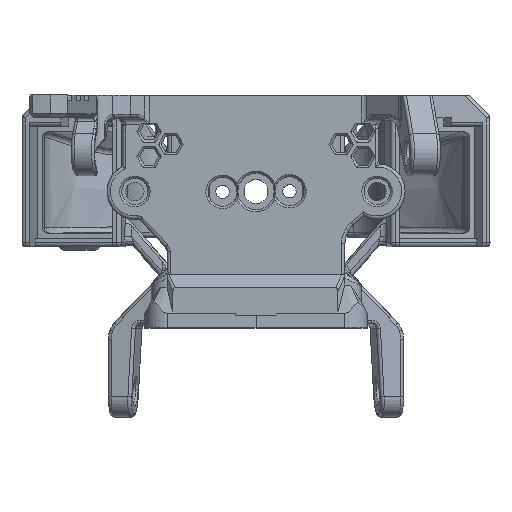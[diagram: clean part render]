
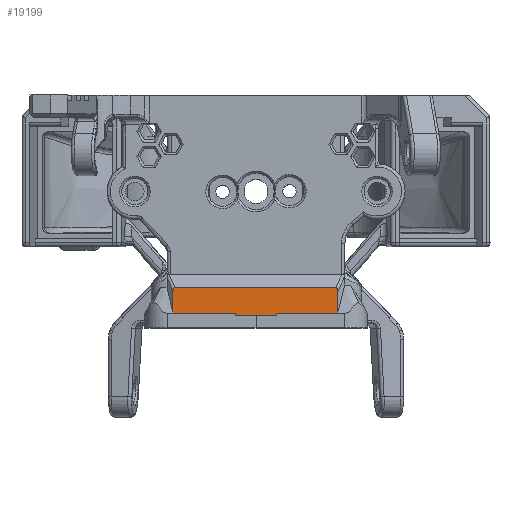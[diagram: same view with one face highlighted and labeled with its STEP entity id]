
A CAD part, top view. The second image highlights one B-rep face of the part: STEP entity #19199.
In plain terms, the highlighted planar face has unit normal (0, 0, 1).
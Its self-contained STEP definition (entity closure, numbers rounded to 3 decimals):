
#774=B_SPLINE_CURVE_WITH_KNOTS('',3,(#36584,#36585,#36586,#36587),
 .UNSPECIFIED.,.F.,.F.,(4,4),(-1.184,-0.064),
 .UNSPECIFIED.);
#775=B_SPLINE_CURVE_WITH_KNOTS('',3,(#36594,#36595,#36596,#36597),
 .UNSPECIFIED.,.F.,.F.,(4,4),(-1.097,0.),.UNSPECIFIED.);
#1228=ELLIPSE('',#20656,1.919,0.746);
#1230=ELLIPSE('',#20660,1.92,0.746);
#1473=PLANE('',#20659);
#2437=FACE_OUTER_BOUND('',#3606,.T.);
#3606=EDGE_LOOP('',(#14924,#14925,#14926,#14927,#14928,#14929,#14930,#14931,
#14932,#14933));
#4875=LINE('',#35071,#6245);
#4953=LINE('',#36577,#6323);
#4955=LINE('',#36582,#6325);
#4956=LINE('',#36589,#6326);
#4957=LINE('',#36591,#6327);
#4958=LINE('',#36593,#6328);
#6245=VECTOR('',#23398,10.);
#6323=VECTOR('',#23738,10.);
#6325=VECTOR('',#23744,10.);
#6326=VECTOR('',#23745,10.);
#6327=VECTOR('',#23746,10.);
#6328=VECTOR('',#23747,10.);
#8673=VERTEX_POINT('',#34925);
#8679=VERTEX_POINT('',#35068);
#8680=VERTEX_POINT('',#35070);
#8795=VERTEX_POINT('',#36570);
#8796=VERTEX_POINT('',#36572);
#8797=VERTEX_POINT('',#36576);
#8799=VERTEX_POINT('',#36583);
#8800=VERTEX_POINT('',#36588);
#8801=VERTEX_POINT('',#36590);
#8802=VERTEX_POINT('',#36592);
#10838=EDGE_CURVE('',#8679,#8680,#4875,.T.);
#11039=EDGE_CURVE('',#8795,#8796,#1228,.T.);
#11041=EDGE_CURVE('',#8797,#8796,#4953,.F.);
#11044=EDGE_CURVE('',#8673,#8795,#4955,.T.);
#11045=EDGE_CURVE('',#8799,#8673,#774,.T.);
#11046=EDGE_CURVE('',#8800,#8799,#4956,.T.);
#11047=EDGE_CURVE('',#8800,#8801,#4957,.F.);
#11048=EDGE_CURVE('',#8802,#8801,#4958,.T.);
#11049=EDGE_CURVE('',#8680,#8802,#775,.T.);
#11050=EDGE_CURVE('',#8797,#8679,#1230,.T.);
#14924=ORIENTED_EDGE('',*,*,#11039,.F.);
#14925=ORIENTED_EDGE('',*,*,#11044,.F.);
#14926=ORIENTED_EDGE('',*,*,#11045,.F.);
#14927=ORIENTED_EDGE('',*,*,#11046,.F.);
#14928=ORIENTED_EDGE('',*,*,#11047,.T.);
#14929=ORIENTED_EDGE('',*,*,#11048,.F.);
#14930=ORIENTED_EDGE('',*,*,#11049,.F.);
#14931=ORIENTED_EDGE('',*,*,#10838,.F.);
#14932=ORIENTED_EDGE('',*,*,#11050,.F.);
#14933=ORIENTED_EDGE('',*,*,#11041,.T.);
#19199=ADVANCED_FACE('',(#2437),#1473,.F.);
#20656=AXIS2_PLACEMENT_3D('',#36573,#23733,#23734);
#20659=AXIS2_PLACEMENT_3D('',#36581,#23742,#23743);
#20660=AXIS2_PLACEMENT_3D('',#36598,#23748,#23749);
#23398=DIRECTION('',(0.,-1.,0.));
#23733=DIRECTION('center_axis',(0.,0.,
-1.));
#23734=DIRECTION('ref_axis',(-0.422,0.907,0.));
#23738=DIRECTION('',(1.,0.,0.));
#23742=DIRECTION('center_axis',(0.,0.,
-1.));
#23743=DIRECTION('ref_axis',(-1.,0.,0.));
#23744=DIRECTION('',(0.,1.,0.));
#23745=DIRECTION('',(0.,1.,0.));
#23746=DIRECTION('',(-1.,-0.004,0.));
#23747=DIRECTION('',(0.,-1.,0.));
#23748=DIRECTION('center_axis',(0.,0.,
-1.));
#23749=DIRECTION('ref_axis',(0.422,0.907,0.));
#34925=CARTESIAN_POINT('',(-14.871,-39.066,-1.502));
#35068=CARTESIAN_POINT('',(14.71,-35.159,-1.502));
#35070=CARTESIAN_POINT('',(14.71,-39.067,-1.502));
#35071=CARTESIAN_POINT('',(14.71,-28.319,-1.502));
#36570=CARTESIAN_POINT('',(-14.871,-35.158,-1.502));
#36572=CARTESIAN_POINT('',(-14.492,-34.524,-1.502));
#36573=CARTESIAN_POINT('Origin',(-13.816,-36.292,-1.502));
#36576=CARTESIAN_POINT('',(14.331,-34.524,-1.502));
#36577=CARTESIAN_POINT('',(7.735,-34.524,-1.502));
#36581=CARTESIAN_POINT('Origin',(0.07,-27.896,-1.502));
#36582=CARTESIAN_POINT('',(-14.871,-28.319,-1.502));
#36583=CARTESIAN_POINT('',(-3.673,-39.093,-1.502));
#36584=CARTESIAN_POINT('Ctrl Pts',(-3.673,-39.093,
-1.502));
#36585=CARTESIAN_POINT('Ctrl Pts',(-7.406,-39.084,
-1.502));
#36586=CARTESIAN_POINT('Ctrl Pts',(-11.138,-39.075,-1.502));
#36587=CARTESIAN_POINT('Ctrl Pts',(-14.871,-39.066,
-1.502));
#36588=CARTESIAN_POINT('',(-3.673,-39.464,-1.502));
#36589=CARTESIAN_POINT('',(-3.673,-33.849,-1.502));
#36590=CARTESIAN_POINT('',(3.744,-39.438,-1.502));
#36591=CARTESIAN_POINT('',(6.477,-39.428,-1.502));
#36592=CARTESIAN_POINT('',(3.744,-39.093,-1.502));
#36593=CARTESIAN_POINT('',(3.744,-33.849,-1.502));
#36594=CARTESIAN_POINT('Ctrl Pts',(14.71,-39.067,-1.502));
#36595=CARTESIAN_POINT('Ctrl Pts',(11.054,-39.076,-1.502));
#36596=CARTESIAN_POINT('Ctrl Pts',(7.399,-39.084,-1.502));
#36597=CARTESIAN_POINT('Ctrl Pts',(3.744,-39.093,-1.502));
#36598=CARTESIAN_POINT('Origin',(13.654,-36.293,-1.502));
